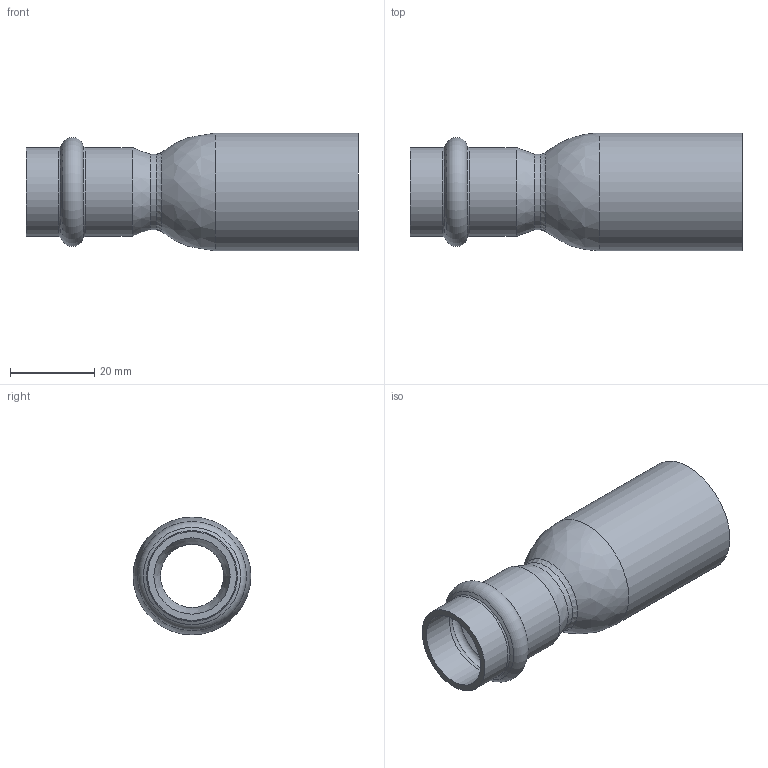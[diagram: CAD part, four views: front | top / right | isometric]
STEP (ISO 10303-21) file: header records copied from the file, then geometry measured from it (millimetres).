
FILE_DESCRIPTION((''),'2;1');
FILE_NAME('G:\Technics\CAD\Bauteile\028\692432818(1).stp','2008-02-27T08:46:22',('herberg'),(''),'Autodesk Inventor 2008','Autodesk Inventor 2008','');
FILE_SCHEMA(('AUTOMOTIVE_DESIGN { 1 0 10303 214 1 1 1 1 }'));
Length unit declared in the file: millimetre
Products named in the file (1): 692432818(1)
Bounding box: 79 x 28 x 28 mm (x, y, z)
Volume: 9003.6 mm3; surface area: 12221.8 mm2
Topology: 1 solids, 1 shells, 24 faces, 50 edges, 28 vertices
Faces by surface type: cylinder 8, bspline 8, cone 4, torus 2, plane 2
Full cylindrical faces by diameter (mm): 15 x1, 18 x1, 18.15 x2, 21.15 x2, 25 x1, 28 x1
Entity records: 798 total; most frequent: CARTESIAN_POINT 389, DIRECTION 82, ORIENTED_EDGE 48, EDGE_LOOP 48, AXIS2_PLACEMENT_3D 41, VERTEX_POINT 24, CIRCLE 24, EDGE_CURVE 24
